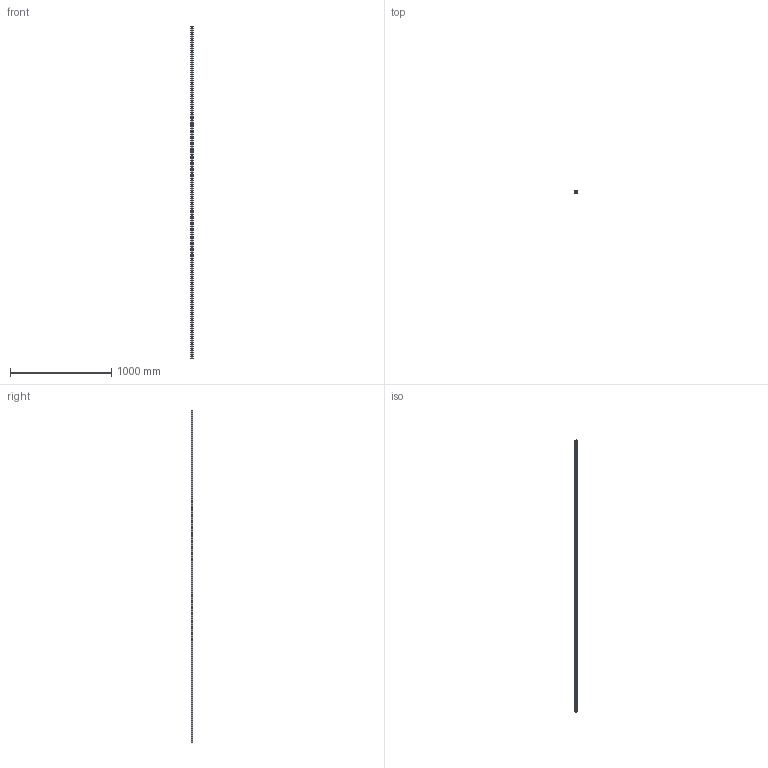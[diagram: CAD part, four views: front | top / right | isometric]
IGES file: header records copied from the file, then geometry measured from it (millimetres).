
Start section: SolidWorks IGES file using analytic representation for surfaces
Global section: file name: C:\Users\IanO\Desktop\L1016_v2\L1016.BL25_v2\L1016.BL25_v2_20160611_IGES\L1016.BL25-3280.igs; native system: SolidWorks 2017; preprocessor: SolidWorks 2017; author: IanO; date: 190612.131447; units: millimetre
Bounding box: 23 x 19.2 x 3280 mm (x, y, z)
Surface area: 310241.6 mm2 (no closed solid volume)
Topology: 0 solids, 0 shells, 301 faces, 8088 edges, 8088 vertices
Faces by surface type: revolution 224, bspline 77
